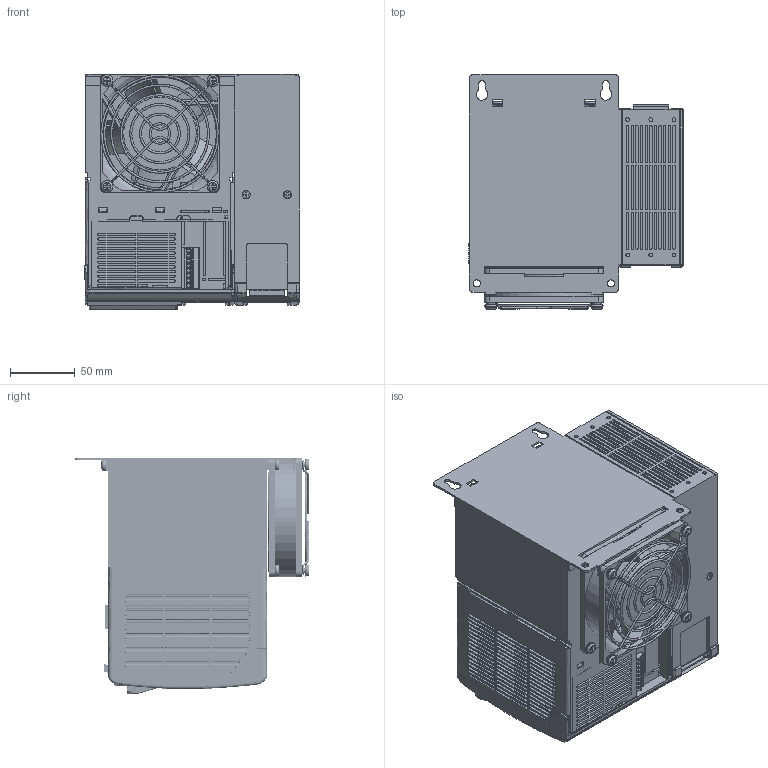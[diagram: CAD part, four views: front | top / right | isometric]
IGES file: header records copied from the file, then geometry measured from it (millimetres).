
Global section: file name: SR26 logo; native system: AutoCAD 2015 - Italiano (Italian); preprocessor: Autodesk Translation Framework DWG producer (atf_dwg_producer); organization: unknown; date: 20191105.161250; units: millimetre
Bounding box: 166.06 x 181.7 x 182.62 mm (x, y, z)
Volume: 3595427.8 mm3; surface area: 319446.3 mm2
Topology: 11 solids, 70 shells, 5986 faces, 15979 edges, 10364 vertices
Faces by surface type: bspline 5986
